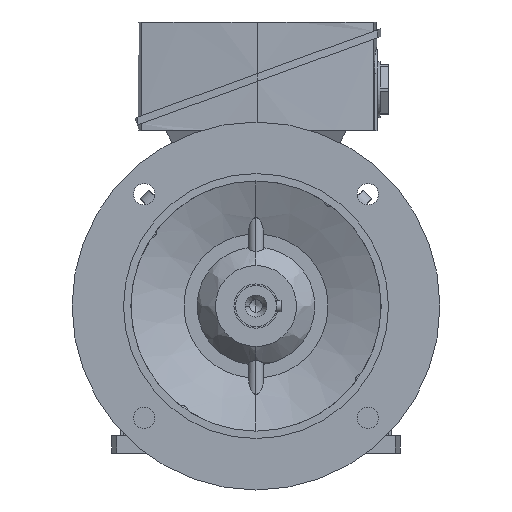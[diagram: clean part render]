
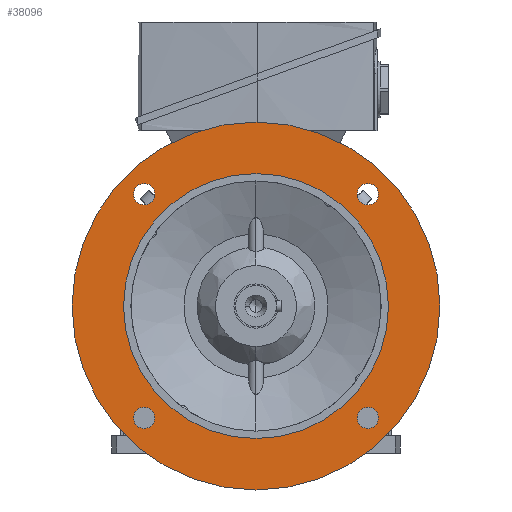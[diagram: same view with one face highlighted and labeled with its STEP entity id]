
A CAD part, left-side view. The second image highlights one B-rep face of the part: STEP entity #38096.
In plain terms, the highlighted planar face has unit normal (-1, 0, 0).
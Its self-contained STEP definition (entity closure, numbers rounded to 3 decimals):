
#419 = CIRCLE ( 'NONE', #9394, 7.25 ) ;
#816 = AXIS2_PLACEMENT_3D ( 'NONE', #18160, #18154, #18105 ) ;
#1124 = VERTEX_POINT ( 'NONE', #29061 ) ;
#1162 = VERTEX_POINT ( 'NONE', #28609 ) ;
#1402 = EDGE_LOOP ( 'NONE', ( #35263, #36745 ) ) ;
#2000 = EDGE_LOOP ( 'NONE', ( #36790, #37926 ) ) ;
#2804 = VERTEX_POINT ( 'NONE', #26203 ) ;
#2982 = EDGE_LOOP ( 'NONE', ( #31160, #31773 ) ) ;
#3125 = EDGE_LOOP ( 'NONE', ( #32199, #34870 ) ) ;
#3559 = CIRCLE ( 'NONE', #40690, 7.25 ) ;
#3717 = EDGE_LOOP ( 'NONE', ( #29206, #30771 ) ) ;
#4009 = EDGE_LOOP ( 'NONE', ( #39443, #39888 ) ) ;
#4228 = CIRCLE ( 'NONE', #30165, 7.25 ) ;
#4305 = AXIS2_PLACEMENT_3D ( 'NONE', #33171, #33253, #33389 ) ;
#5633 = VERTEX_POINT ( 'NONE', #19148 ) ;
#6540 = DIRECTION ( 'NONE',  ( 0., 0., 1. ) ) ;
#6590 = DIRECTION ( 'NONE',  ( 1., 0., 0. ) ) ;
#6623 = CARTESIAN_POINT ( 'NONE',  ( -40.5, 0., 0. ) ) ;
#6736 = CARTESIAN_POINT ( 'NONE',  ( -40.5, -76.014, 68.764 ) ) ;
#8338 = CARTESIAN_POINT ( 'NONE',  ( -40.5, 0., 90. ) ) ;
#9102 = VERTEX_POINT ( 'NONE', #6736 ) ;
#9266 = EDGE_CURVE ( 'NONE', #36802, #5633, #3559, .T. ) ;
#9332 = EDGE_CURVE ( 'NONE', #33665, #2804, #419, .T. ) ;
#9394 = AXIS2_PLACEMENT_3D ( 'NONE', #37879, #37866, #37822 ) ;
#10622 = VERTEX_POINT ( 'NONE', #20445 ) ;
#10842 = EDGE_CURVE ( 'NONE', #5633, #36802, #35918, .T. ) ;
#11725 = AXIS2_PLACEMENT_3D ( 'NONE', #17465, #17422, #17412 ) ;
#12178 = CARTESIAN_POINT ( 'NONE',  ( -40.5, -76.014, 83.264 ) ) ;
#13739 = CARTESIAN_POINT ( 'NONE',  ( -40.5, 0., 125. ) ) ;
#14144 = EDGE_CURVE ( 'NONE', #15353, #1124, #15172, .T. ) ;
#15172 = CIRCLE ( 'NONE', #11725, 7.25 ) ;
#15353 = VERTEX_POINT ( 'NONE', #30564 ) ;
#15409 = CARTESIAN_POINT ( 'NONE',  ( -40.5, 76.014, 83.264 ) ) ;
#16315 = EDGE_CURVE ( 'NONE', #38249, #9102, #4228, .T. ) ;
#16472 = CIRCLE ( 'NONE', #20673, 125. ) ;
#16896 = DIRECTION ( 'NONE',  ( 0., 0., -1. ) ) ;
#16907 = DIRECTION ( 'NONE',  ( 1., 0., 0. ) ) ;
#16940 = CARTESIAN_POINT ( 'NONE',  ( -40.5, 76.014, 76.014 ) ) ;
#17290 = DIRECTION ( 'NONE',  ( 0., 0., -1. ) ) ;
#17335 = DIRECTION ( 'NONE',  ( 1., 0., 0. ) ) ;
#17412 = DIRECTION ( 'NONE',  ( 0., 0., -1. ) ) ;
#17422 = DIRECTION ( 'NONE',  ( 1., 0., 0. ) ) ;
#17430 = CARTESIAN_POINT ( 'NONE',  ( -40.5, 76.014, -76.014 ) ) ;
#17465 = CARTESIAN_POINT ( 'NONE',  ( -40.5, -76.014, -76.014 ) ) ;
#17633 = CIRCLE ( 'NONE', #36569, 125. ) ;
#17656 = CIRCLE ( 'NONE', #4305, 7.25 ) ;
#17799 = AXIS2_PLACEMENT_3D ( 'NONE', #16940, #16907, #16896 ) ;
#18105 = DIRECTION ( 'NONE',  ( 0., 0., 1. ) ) ;
#18154 = DIRECTION ( 'NONE',  ( -1., 0., 0. ) ) ;
#18160 = CARTESIAN_POINT ( 'NONE',  ( -40.5, 107.5, 0. ) ) ;
#18696 = PLANE ( 'NONE',  #816 ) ;
#19148 = CARTESIAN_POINT ( 'NONE',  ( -40.5, 76.014, 68.764 ) ) ;
#19180 = CIRCLE ( 'NONE', #38919, 90. ) ;
#19405 = DIRECTION ( 'NONE',  ( 0., 0., -1. ) ) ;
#19464 = DIRECTION ( 'NONE',  ( 1., 0., 0. ) ) ;
#19552 = CARTESIAN_POINT ( 'NONE',  ( -40.5, -76.014, 76.014 ) ) ;
#20416 = DIRECTION ( 'NONE',  ( 0., 0., 1. ) ) ;
#20445 = CARTESIAN_POINT ( 'NONE',  ( -40.5, 0., -125. ) ) ;
#20459 = DIRECTION ( 'NONE',  ( 1., 0., 0. ) ) ;
#20552 = CARTESIAN_POINT ( 'NONE',  ( -40.5, 0., 0. ) ) ;
#20673 = AXIS2_PLACEMENT_3D ( 'NONE', #33359, #33348, #33165 ) ;
#20871 = EDGE_CURVE ( 'NONE', #2804, #33665, #27437, .T. ) ;
#26203 = CARTESIAN_POINT ( 'NONE',  ( -40.5, 76.014, -68.764 ) ) ;
#26274 = EDGE_CURVE ( 'NONE', #1124, #15353, #17656, .T. ) ;
#26735 = CIRCLE ( 'NONE', #38672, 7.25 ) ;
#27042 = EDGE_CURVE ( 'NONE', #39185, #1162, #19180, .T. ) ;
#27047 = EDGE_CURVE ( 'NONE', #9102, #38249, #26735, .T. ) ;
#27437 = CIRCLE ( 'NONE', #33740, 7.25 ) ;
#27842 = AXIS2_PLACEMENT_3D ( 'NONE', #6623, #6590, #6540 ) ;
#28609 = CARTESIAN_POINT ( 'NONE',  ( -40.5, 0., -90. ) ) ;
#29061 = CARTESIAN_POINT ( 'NONE',  ( -40.5, -76.014, -68.764 ) ) ;
#29206 = ORIENTED_EDGE ( 'NONE', *, *, #27042, .T. ) ;
#30165 = AXIS2_PLACEMENT_3D ( 'NONE', #39041, #38999, #38940 ) ;
#30564 = CARTESIAN_POINT ( 'NONE',  ( -40.5, -76.014, -83.264 ) ) ;
#30771 = ORIENTED_EDGE ( 'NONE', *, *, #42261, .T. ) ;
#30798 = CIRCLE ( 'NONE', #27842, 90. ) ;
#30919 = EDGE_CURVE ( 'NONE', #41273, #10622, #16472, .T. ) ;
#30946 = EDGE_CURVE ( 'NONE', #10622, #41273, #17633, .T. ) ;
#31160 = ORIENTED_EDGE ( 'NONE', *, *, #30919, .F. ) ;
#31626 = DIRECTION ( 'NONE',  ( 0., 0., 1. ) ) ;
#31714 = DIRECTION ( 'NONE',  ( 1., 0., 0. ) ) ;
#31751 = CARTESIAN_POINT ( 'NONE',  ( -40.5, 0., 0. ) ) ;
#31773 = ORIENTED_EDGE ( 'NONE', *, *, #30946, .F. ) ;
#32199 = ORIENTED_EDGE ( 'NONE', *, *, #27047, .T. ) ;
#33165 = DIRECTION ( 'NONE',  ( 0., 0., 1. ) ) ;
#33171 = CARTESIAN_POINT ( 'NONE',  ( -40.5, -76.014, -76.014 ) ) ;
#33253 = DIRECTION ( 'NONE',  ( 1., 0., 0. ) ) ;
#33348 = DIRECTION ( 'NONE',  ( 1., 0., 0. ) ) ;
#33359 = CARTESIAN_POINT ( 'NONE',  ( -40.5, 0., 0. ) ) ;
#33389 = DIRECTION ( 'NONE',  ( 0., 0., -1. ) ) ;
#33665 = VERTEX_POINT ( 'NONE', #41132 ) ;
#33740 = AXIS2_PLACEMENT_3D ( 'NONE', #17430, #17335, #17290 ) ;
#34870 = ORIENTED_EDGE ( 'NONE', *, *, #16315, .T. ) ;
#35263 = ORIENTED_EDGE ( 'NONE', *, *, #10842, .T. ) ;
#35918 = CIRCLE ( 'NONE', #17799, 7.25 ) ;
#36569 = AXIS2_PLACEMENT_3D ( 'NONE', #31751, #31714, #31626 ) ;
#36745 = ORIENTED_EDGE ( 'NONE', *, *, #9266, .T. ) ;
#36790 = ORIENTED_EDGE ( 'NONE', *, *, #9332, .T. ) ;
#36802 = VERTEX_POINT ( 'NONE', #15409 ) ;
#37822 = DIRECTION ( 'NONE',  ( 0., 0., -1. ) ) ;
#37866 = DIRECTION ( 'NONE',  ( 1., 0., 0. ) ) ;
#37879 = CARTESIAN_POINT ( 'NONE',  ( -40.5, 76.014, -76.014 ) ) ;
#37926 = ORIENTED_EDGE ( 'NONE', *, *, #20871, .T. ) ;
#38096 = ADVANCED_FACE ( 'NONE', ( #40651, #38239, #40225, #40576, #40185, #39827 ), #18696, .T. ) ;
#38239 = FACE_OUTER_BOUND ( 'NONE', #2982, .T. ) ;
#38249 = VERTEX_POINT ( 'NONE', #12178 ) ;
#38672 = AXIS2_PLACEMENT_3D ( 'NONE', #19552, #19464, #19405 ) ;
#38750 = DIRECTION ( 'NONE',  ( 0., 0., -1. ) ) ;
#38800 = DIRECTION ( 'NONE',  ( 1., 0., 0. ) ) ;
#38850 = CARTESIAN_POINT ( 'NONE',  ( -40.5, 76.014, 76.014 ) ) ;
#38919 = AXIS2_PLACEMENT_3D ( 'NONE', #20552, #20459, #20416 ) ;
#38940 = DIRECTION ( 'NONE',  ( 0., 0., -1. ) ) ;
#38999 = DIRECTION ( 'NONE',  ( 1., 0., 0. ) ) ;
#39041 = CARTESIAN_POINT ( 'NONE',  ( -40.5, -76.014, 76.014 ) ) ;
#39185 = VERTEX_POINT ( 'NONE', #8338 ) ;
#39443 = ORIENTED_EDGE ( 'NONE', *, *, #14144, .T. ) ;
#39827 = FACE_BOUND ( 'NONE', #4009, .T. ) ;
#39888 = ORIENTED_EDGE ( 'NONE', *, *, #26274, .T. ) ;
#40185 = FACE_BOUND ( 'NONE', #2000, .T. ) ;
#40225 = FACE_BOUND ( 'NONE', #3125, .T. ) ;
#40576 = FACE_BOUND ( 'NONE', #1402, .T. ) ;
#40651 = FACE_BOUND ( 'NONE', #3717, .T. ) ;
#40690 = AXIS2_PLACEMENT_3D ( 'NONE', #38850, #38800, #38750 ) ;
#41132 = CARTESIAN_POINT ( 'NONE',  ( -40.5, 76.014, -83.264 ) ) ;
#41273 = VERTEX_POINT ( 'NONE', #13739 ) ;
#42261 = EDGE_CURVE ( 'NONE', #1162, #39185, #30798, .T. ) ;
